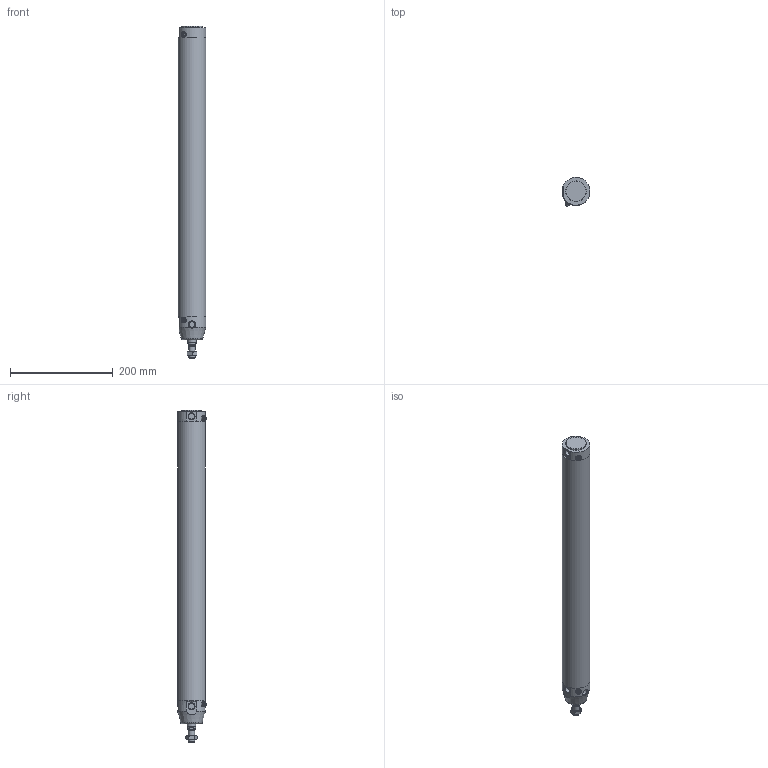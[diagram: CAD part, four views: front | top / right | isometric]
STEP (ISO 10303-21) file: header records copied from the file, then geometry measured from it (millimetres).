
FILE_DESCRIPTION(/* description */ (''),/* implementation_level */ '2;1');
FILE_NAME(/* name */ 'I:\Area Tecnica\Documenti\A-Manieri\_Inventor\12X\12X#E_###_####_#_#\12XBE_050_0500_#_#.stp',/* time_stamp */ '2015-05-08T13:58:30+02:00',/* author */ ('maniean1'),/* organization */ ('Pneumax S.p.A.'),/* preprocessor_version */ 'ST-DEVELOPER v15.2',/* originating_system */ 'Autodesk Inventor 2014',/* authorisation */ '');
FILE_SCHEMA (('AUTOMOTIVE_DESIGN { 1 0 10303 214 3 1 1 }'));
Length unit declared in the file: millimetre
Products named in the file (6): C1250_619-0500; 12X50_623; S12X50_0500; 12X_50_11; 12X50_612; 12XBE_050_0500_#_#
Bounding box: 54 x 55.88 x 645 mm (x, y, z)
Volume: 503303.9 mm3; surface area: 240396.2 mm2
Topology: 5 solids, 5 shells, 83 faces, 174 edges, 112 vertices
Faces by surface type: plane 45, cylinder 22, cone 13, torus 3
Full cylindrical faces by diameter (mm): 5 x2, 10.2 x1, 10.9 x2, 11 x2, 11.4 x2, 12 x2, 14 x1, 14.1 x2, 15.6 x1, 16 x1, 40 x1, 50 x2, 54 x3
Entity records: 2203 total; most frequent: CARTESIAN_POINT 508, DIRECTION 359, ORIENTED_EDGE 254, AXIS2_PLACEMENT_3D 161, EDGE_LOOP 136, EDGE_CURVE 127, VERTEX_POINT 101, ADVANCED_FACE 83
